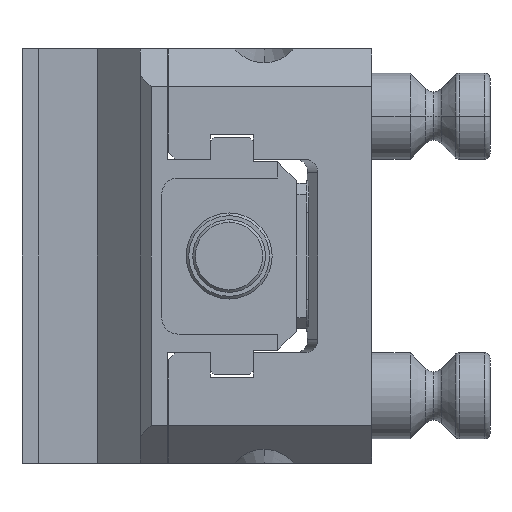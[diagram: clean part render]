
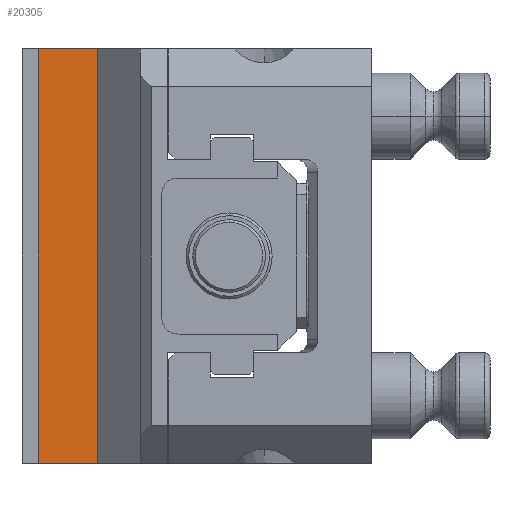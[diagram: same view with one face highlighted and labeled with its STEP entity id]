
A CAD part, left-side view. The second image highlights one B-rep face of the part: STEP entity #20305.
In plain terms, the highlighted planar face has unit normal (-1, 0, 0) as drawn and (0, 0, -1) by its records, which use the part's own axes.
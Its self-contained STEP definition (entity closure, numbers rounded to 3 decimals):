
#70 = DIRECTION ( 'NONE',  ( 0., 0., 1. ) ) ;
#1509 = VECTOR ( 'NONE', #30883, 1000. ) ;
#5537 = VECTOR ( 'NONE', #21144, 1000. ) ;
#6299 = VERTEX_POINT ( 'NONE', #22444 ) ;
#6960 = DIRECTION ( 'NONE',  ( 0., -1., 0. ) ) ;
#7042 = AXIS2_PLACEMENT_3D ( 'NONE', #9887, #70, #6960 ) ;
#7685 = ORIENTED_EDGE ( 'NONE', *, *, #25603, .F. ) ;
#8970 = LINE ( 'NONE', #13870, #5537 ) ;
#9887 = CARTESIAN_POINT ( 'NONE',  ( 38.5, 62., 6. ) ) ;
#10376 = ORIENTED_EDGE ( 'NONE', *, *, #11181, .T. ) ;
#10873 = ORIENTED_EDGE ( 'NONE', *, *, #19623, .F. ) ;
#11027 = LINE ( 'NONE', #15748, #1509 ) ;
#11181 = EDGE_CURVE ( 'NONE', #27815, #31769, #8970, .T. ) ;
#11530 = CARTESIAN_POINT ( 'NONE',  ( -38.5, 51., 6. ) ) ;
#13226 = CARTESIAN_POINT ( 'NONE',  ( 38.5, 62., 6. ) ) ;
#13870 = CARTESIAN_POINT ( 'NONE',  ( 38.5, 51., 6. ) ) ;
#14688 = LINE ( 'NONE', #31754, #23106 ) ;
#15748 = CARTESIAN_POINT ( 'NONE',  ( 38.5, 62., 6. ) ) ;
#16253 = EDGE_CURVE ( 'NONE', #31769, #6299, #14688, .T. ) ;
#16857 = VECTOR ( 'NONE', #26054, 1000. ) ;
#17564 = CARTESIAN_POINT ( 'NONE',  ( 38.5, 51., 6. ) ) ;
#18609 = LINE ( 'NONE', #19266, #16857 ) ;
#19266 = CARTESIAN_POINT ( 'NONE',  ( 38.5, 62., 6. ) ) ;
#19622 = FACE_OUTER_BOUND ( 'NONE', #28124, .T. ) ;
#19623 = EDGE_CURVE ( 'NONE', #21775, #6299, #18609, .T. ) ;
#20305 = ADVANCED_FACE ( 'NONE', ( #19622 ), #22342, .F. ) ;
#21144 = DIRECTION ( 'NONE',  ( -1., 0., 0. ) ) ;
#21775 = VERTEX_POINT ( 'NONE', #13226 ) ;
#21863 = ORIENTED_EDGE ( 'NONE', *, *, #16253, .T. ) ;
#22342 = PLANE ( 'NONE',  #7042 ) ;
#22444 = CARTESIAN_POINT ( 'NONE',  ( -38.5, 62., 6. ) ) ;
#23106 = VECTOR ( 'NONE', #24863, 1000. ) ;
#24863 = DIRECTION ( 'NONE',  ( 0., 1., 0. ) ) ;
#25603 = EDGE_CURVE ( 'NONE', #27815, #21775, #11027, .T. ) ;
#26054 = DIRECTION ( 'NONE',  ( -1., 0., 0. ) ) ;
#27815 = VERTEX_POINT ( 'NONE', #17564 ) ;
#28124 = EDGE_LOOP ( 'NONE', ( #21863, #10873, #7685, #10376 ) ) ;
#30883 = DIRECTION ( 'NONE',  ( 0., 1., 0. ) ) ;
#31754 = CARTESIAN_POINT ( 'NONE',  ( -38.5, 62., 6. ) ) ;
#31769 = VERTEX_POINT ( 'NONE', #11530 ) ;
